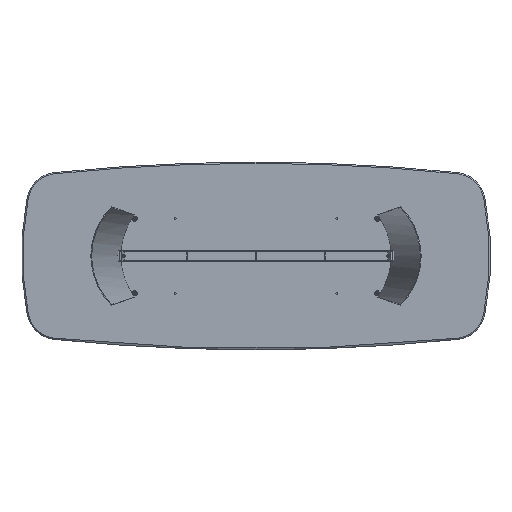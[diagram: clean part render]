
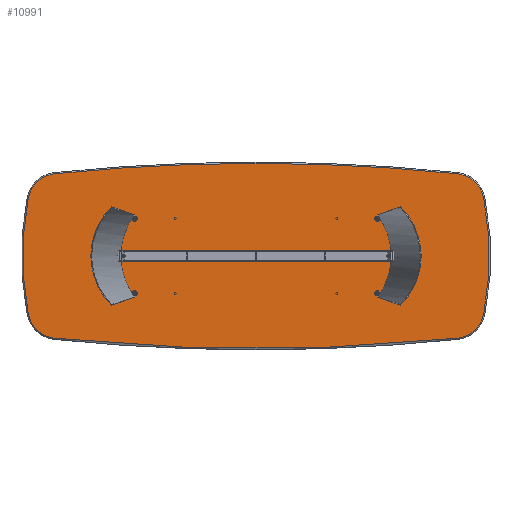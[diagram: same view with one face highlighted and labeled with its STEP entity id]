
A CAD part, front view. The second image highlights one B-rep face of the part: STEP entity #10991.
In plain terms, the highlighted planar face has unit normal (0, -1, 0).
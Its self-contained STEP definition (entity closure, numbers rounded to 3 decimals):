
#114 = DIRECTION ( 'NONE',  ( 0., 0., 1. ) ) ;
#285 = VERTEX_POINT ( 'NONE', #9368 ) ;
#477 = CIRCLE ( 'NONE', #7880, 192. ) ;
#512 = CARTESIAN_POINT ( 'NONE',  ( 1266.747, 0., -334.597 ) ) ;
#713 = DIRECTION ( 'NONE',  ( 0., -1., 0. ) ) ;
#761 = CARTESIAN_POINT ( 'NONE',  ( -1454.991, 0., -372.386 ) ) ;
#897 = CARTESIAN_POINT ( 'NONE',  ( -1266.747, 0., -334.597 ) ) ;
#938 = EDGE_CURVE ( 'NONE', #7936, #3688, #10650, .T. ) ;
#1038 = EDGE_CURVE ( 'NONE', #8306, #5844, #11269, .T. ) ;
#1065 = CARTESIAN_POINT ( 'NONE',  ( -1286.52, 0., -525.576 ) ) ;
#1072 = CARTESIAN_POINT ( 'NONE',  ( -1266.747, 0., 334.597 ) ) ;
#1128 = DIRECTION ( 'NONE',  ( 0., -1., 0. ) ) ;
#1234 = ORIENTED_EDGE ( 'NONE', *, *, #9693, .T. ) ;
#1358 = CARTESIAN_POINT ( 'NONE',  ( 1286.52, 0., 525.576 ) ) ;
#1482 = DIRECTION ( 'NONE',  ( 0., -1., 0. ) ) ;
#1569 = CARTESIAN_POINT ( 'NONE',  ( 1286.52, 0., -525.576 ) ) ;
#1582 = DIRECTION ( 'NONE',  ( 0., 1., 0. ) ) ;
#1595 = DIRECTION ( 'NONE',  ( 0., 0., 1. ) ) ;
#1860 = CARTESIAN_POINT ( 'NONE',  ( 0., 0., -11900. ) ) ;
#2139 = CARTESIAN_POINT ( 'NONE',  ( 1454.991, 0., 372.386 ) ) ;
#2379 = CARTESIAN_POINT ( 'NONE',  ( -200., 0., 5950. ) ) ;
#2571 = VERTEX_POINT ( 'NONE', #2139 ) ;
#2707 = ORIENTED_EDGE ( 'NONE', *, *, #3863, .T. ) ;
#2821 = CIRCLE ( 'NONE', #3598, 192. ) ;
#2908 = DIRECTION ( 'NONE',  ( 0., -1., 0. ) ) ;
#2913 = ORIENTED_EDGE ( 'NONE', *, *, #9781, .T. ) ;
#2990 = ORIENTED_EDGE ( 'NONE', *, *, #6230, .T. ) ;
#3030 = DIRECTION ( 'NONE',  ( 0., -1., 0. ) ) ;
#3223 = CIRCLE ( 'NONE', #6741, 12492. ) ;
#3337 = CIRCLE ( 'NONE', #10896, 12492. ) ;
#3467 = DIRECTION ( 'NONE',  ( 0., 0., 1. ) ) ;
#3533 = AXIS2_PLACEMENT_3D ( 'NONE', #897, #713, #3467 ) ;
#3598 = AXIS2_PLACEMENT_3D ( 'NONE', #11470, #3030, #7782 ) ;
#3688 = VERTEX_POINT ( 'NONE', #1569 ) ;
#3798 = EDGE_CURVE ( 'NONE', #10356, #285, #3337, .T. ) ;
#3829 = CARTESIAN_POINT ( 'NONE',  ( 400., 0., 0. ) ) ;
#3863 = EDGE_CURVE ( 'NONE', #9359, #7936, #6668, .T. ) ;
#4123 = DIRECTION ( 'NONE',  ( 0., 0., 1. ) ) ;
#4838 = EDGE_CURVE ( 'NONE', #8556, #2571, #8597, .T. ) ;
#5052 = AXIS2_PLACEMENT_3D ( 'NONE', #1072, #1128, #114 ) ;
#5249 = DIRECTION ( 'NONE',  ( 0., 0., 1. ) ) ;
#5567 = AXIS2_PLACEMENT_3D ( 'NONE', #2379, #1582, #5249 ) ;
#5844 = VERTEX_POINT ( 'NONE', #6264 ) ;
#5976 = CARTESIAN_POINT ( 'NONE',  ( 1454.991, 0., -372.386 ) ) ;
#6149 = FACE_OUTER_BOUND ( 'NONE', #10995, .T. ) ;
#6227 = CARTESIAN_POINT ( 'NONE',  ( -400., 0., 0. ) ) ;
#6230 = EDGE_CURVE ( 'NONE', #3688, #8556, #477, .T. ) ;
#6264 = CARTESIAN_POINT ( 'NONE',  ( -1454.991, 0., 372.386 ) ) ;
#6318 = CIRCLE ( 'NONE', #8057, 1892. ) ;
#6650 = DIRECTION ( 'NONE',  ( 0., -1., 0. ) ) ;
#6668 = CIRCLE ( 'NONE', #3533, 192. ) ;
#6741 = AXIS2_PLACEMENT_3D ( 'NONE', #1860, #2908, #9277 ) ;
#7079 = ORIENTED_EDGE ( 'NONE', *, *, #938, .T. ) ;
#7238 = CARTESIAN_POINT ( 'NONE',  ( 0., 0., 11900. ) ) ;
#7457 = AXIS2_PLACEMENT_3D ( 'NONE', #6227, #9909, #1595 ) ;
#7782 = DIRECTION ( 'NONE',  ( 0., 0., 1. ) ) ;
#7880 = AXIS2_PLACEMENT_3D ( 'NONE', #512, #1482, #4123 ) ;
#7936 = VERTEX_POINT ( 'NONE', #1065 ) ;
#8053 = ORIENTED_EDGE ( 'NONE', *, *, #1038, .T. ) ;
#8057 = AXIS2_PLACEMENT_3D ( 'NONE', #3829, #6650, #10320 ) ;
#8306 = VERTEX_POINT ( 'NONE', #9912 ) ;
#8556 = VERTEX_POINT ( 'NONE', #5976 ) ;
#8597 = CIRCLE ( 'NONE', #7457, 1892. ) ;
#8984 = CARTESIAN_POINT ( 'NONE',  ( 0., 0., -11900. ) ) ;
#9174 = DIRECTION ( 'NONE',  ( 0., 0., 1. ) ) ;
#9218 = DIRECTION ( 'NONE',  ( 0., -1., 0. ) ) ;
#9277 = DIRECTION ( 'NONE',  ( 0., 0., 1. ) ) ;
#9359 = VERTEX_POINT ( 'NONE', #761 ) ;
#9368 = CARTESIAN_POINT ( 'NONE',  ( 0., 0., 592. ) ) ;
#9693 = EDGE_CURVE ( 'NONE', #5844, #9359, #6318, .T. ) ;
#9781 = EDGE_CURVE ( 'NONE', #2571, #10356, #2821, .T. ) ;
#9836 = PLANE ( 'NONE',  #5567 ) ;
#9909 = DIRECTION ( 'NONE',  ( 0., -1., 0. ) ) ;
#9912 = CARTESIAN_POINT ( 'NONE',  ( -1286.52, 0., 525.576 ) ) ;
#10087 = AXIS2_PLACEMENT_3D ( 'NONE', #7238, #9218, #10923 ) ;
#10096 = ORIENTED_EDGE ( 'NONE', *, *, #3798, .T. ) ;
#10320 = DIRECTION ( 'NONE',  ( 0., 0., 1. ) ) ;
#10356 = VERTEX_POINT ( 'NONE', #1358 ) ;
#10650 = CIRCLE ( 'NONE', #10087, 12492. ) ;
#10896 = AXIS2_PLACEMENT_3D ( 'NONE', #8984, #11782, #9174 ) ;
#10923 = DIRECTION ( 'NONE',  ( 0., 0., 1. ) ) ;
#10991 = ADVANCED_FACE ( 'NONE', ( #6149 ), #9836, .F. ) ;
#10995 = EDGE_LOOP ( 'NONE', ( #2707, #7079, #2990, #11207, #2913, #10096, #11105, #8053, #1234 ) ) ;
#11105 = ORIENTED_EDGE ( 'NONE', *, *, #11565, .T. ) ;
#11207 = ORIENTED_EDGE ( 'NONE', *, *, #4838, .T. ) ;
#11269 = CIRCLE ( 'NONE', #5052, 192. ) ;
#11470 = CARTESIAN_POINT ( 'NONE',  ( 1266.747, 0., 334.597 ) ) ;
#11565 = EDGE_CURVE ( 'NONE', #285, #8306, #3223, .T. ) ;
#11782 = DIRECTION ( 'NONE',  ( 0., -1., 0. ) ) ;
